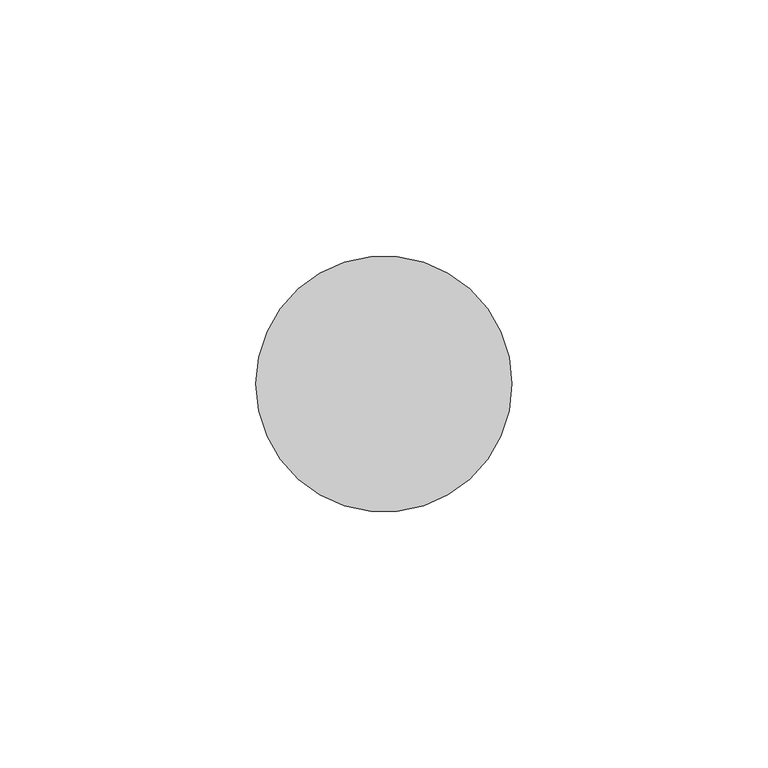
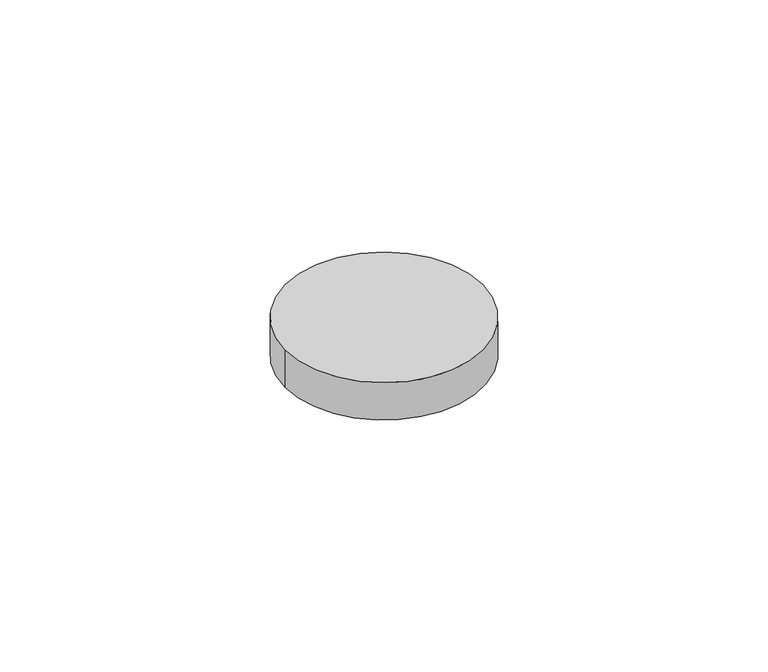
"""IFC4 building model written with IfcOpenShell, lengths in millimetres: light fixture geometry, ___LED___subcomponent : ___LED___subcomponent."""

from ifc_helpers import new_model, si_unit, point, frame, origin, origin_2d, place, context, project, spatial, circle_curve, trimmed, segment, composite_curve, outline, extrude, source, transform, mapped, element, save


def light_fixture_a58e92cf(model_context):
    return source(origin(), model_context, "Body", "SweptSolid", [
        extrude(outline(composite_curve([segment(trimmed(circle_curve(origin_2d(), 25.0), [point((-25.0, 0.0))], [point((25.0, 0.0))], False, "CARTESIAN"), True, "CONTINUOUS"), segment(trimmed(circle_curve(origin_2d(), 25.0), [point((25.0, 0.0))], [point((-25.0, 0.0))], False, "CARTESIAN"), True, "CONTINUOUS")], self_intersect=False)), frame((0.0, 0.0, 1500.0), z_axis=(0.0, 0.0, 1.0), x_axis=(1.0, 0.0, 0.0)), (0.0, 0.0, 1.0), 10.0),
    ])


if __name__ == "__main__":
    model = new_model("IFC4")
    model_context = context("Model", 3, world=origin())
    ifc_project = project(units=[si_unit("LENGTHUNIT", "METRE", prefix="MILLI")], contexts=[model_context])
    site = spatial("IfcSite", under=ifc_project)
    building = spatial("IfcBuilding", under=site)
    placement = place(None, origin())
    light_fixture_shape = light_fixture_a58e92cf(model_context)
    element("IfcLightFixture", 1, ObjectType="___LED___subcomponent : ___LED___subcomponent", at=placement, inside=building, context=model_context, shape_type="MappedRepresentation", body=[
        mapped(light_fixture_shape, transform((0.0, 0.0, 0.0), x_axis=(1.0, 0.0, 0.0), y_axis=(0.0, 1.0, 0.0), z_axis=(0.0, 0.0, 1.0))),
    ])
    save(model, "model.ifc")
